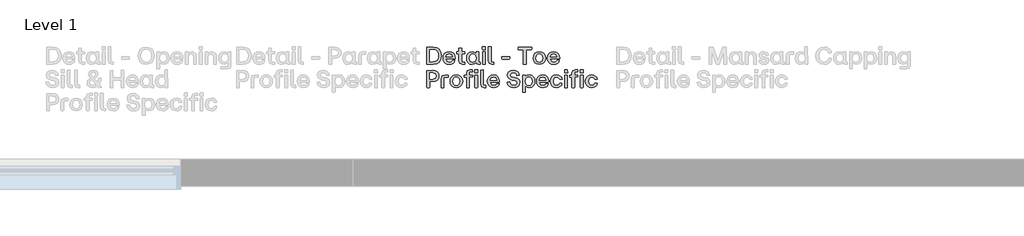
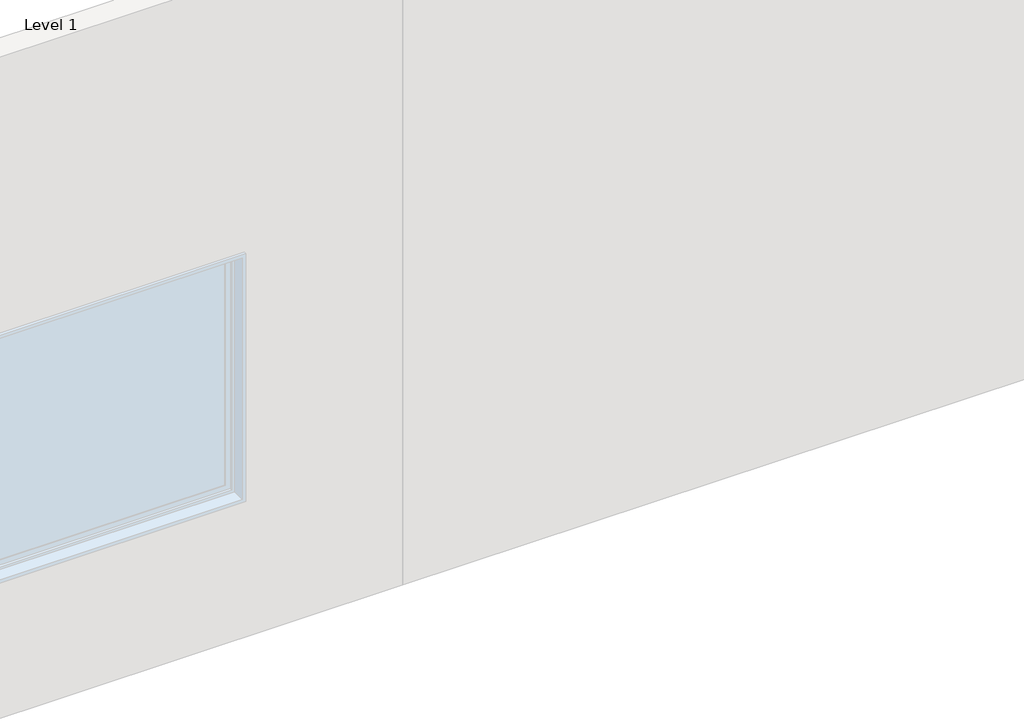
# One storey, part 49 of 64: 1 proxy.
"""IFC4 building model written with IfcOpenShell, lengths in millimetres."""

from ifc_helpers import new_model, si_unit, origin, origin_with_axes, place, context, project, spatial, polyline, outline, extrude, element, save

model = new_model("IFC4")

# Units and contexts
model_context = context("Model", 3, world=origin())
ifc_project = project(units=[si_unit("LENGTHUNIT", "METRE", prefix="MILLI")], contexts=[model_context])

# Site, building, storey
site = spatial("IfcSite", under=ifc_project)
building = spatial("IfcBuilding", under=site)
storey = spatial("IfcBuildingStorey", under=building, Name="Level 1", Elevation=0.0)

# Proxy
placement = place(None, origin())
element("IfcBuildingElementProxy", 1, Name="90mm", ObjectType="90mm", at=placement, inside=storey, context=model_context, shape_type="SweptSolid", body=[
    extrude(outline(polyline([(17110.2926176, -1500.0), (17108.9872124, -1498.7448027), (17108.9872124, -1411.3077612), (17142.5511873, -1410.002356), (17160.5475781, -1413.0054155), (17174.1193986, -1422.0145938), (17182.63905, -1436.3583606), (17185.4789338, -1455.3651852), (17182.648464, -1474.2025582), (17174.1570545, -1488.2890095), (17160.594648, -1497.0722524), (17142.5511873, -1500.0), (17110.2926176, -1500.0)]), holes=[polyline([(17123.7985402, -1487.3727155), (17141.6725492, -1487.3727155), (17153.8950326, -1485.311054), (17162.9481429, -1479.1260695), (17168.5494607, -1469.0625254), (17170.4165666, -1455.3651852), (17168.5431847, -1441.5109454), (17162.923039, -1431.1775339), (17153.8636527, -1424.7477859), (17141.6725492, -1422.6045366), (17123.7985402, -1422.6045366), (17123.7985402, -1487.3727155)])]), origin_with_axes(), (0.0, 0.0, 1.0), 20.0),
    extrude(outline(polyline([(17227.628458, -1500.7531184), (17214.0409476, -1498.4843493), (17203.5035666, -1491.6780421), (17196.7443293, -1481.0622112), (17194.4912502, -1467.3648711), (17196.7349153, -1453.5012173), (17203.4659107, -1442.7881086), (17213.9938777, -1435.9347315), (17227.628458, -1433.6502725), (17240.1584647, -1435.9033516), (17249.7324819, -1442.6625889), (17255.8044987, -1453.3129377), (17257.8285043, -1467.2393514), (17257.8285043, -1470.6785919), (17256.573307, -1472.009101), (17209.1268503, -1472.009101), (17214.6497183, -1484.6865934), (17227.628458, -1489.2053035), (17238.0465953, -1486.9082925), (17243.4439436, -1480.4691305), (17244.8246606, -1479.4147648), (17256.1967478, -1479.4147648), (17254.1633282, -1488.7314665), (17247.8120301, -1495.1925945), (17238.8248176, -1499.3629874), (17227.628458, -1500.7531184)]), holes=[polyline([(17209.2523701, -1461.5909637), (17243.8205028, -1461.5909637), (17239.0633051, -1449.6289337), (17227.628458, -1445.2733992), (17214.8631018, -1449.4155502), (17209.2523701, -1461.5909637)])]), origin_with_axes(), (0.0, 0.0, 1.0), 20.0),
    extrude(outline(polyline([(17296.6140998, -1500.0), (17282.731618, -1495.2302504), (17277.9618684, -1481.3477686), (17277.9618684, -1445.7754781), (17266.7906127, -1445.7754781), (17265.4852076, -1435.7339), (17266.7906127, -1434.4787027), (17277.9618684, -1434.4787027), (17277.9618684, -1416.45407), (17279.2170657, -1415.1486648), (17290.9657121, -1415.1486648), (17292.2209094, -1416.45407), (17292.2209094, -1434.4787027), (17308.0363949, -1434.4787027), (17309.3418001, -1435.7339), (17309.3418001, -1444.444969), (17292.2209094, -1445.7754781), (17292.2209094, -1488.7032246), (17308.0363949, -1488.7032246), (17309.3418001, -1489.9584219), (17309.3418001, -1498.7448027), (17308.0363949, -1500.0), (17296.6140998, -1500.0)])), origin_with_axes(), (0.0, 0.0, 1.0), 20.0),
    extrude(outline(polyline([(17347.2738615, -1500.7531184), (17335.3243835, -1498.4843493), (17326.0861316, -1491.6780421), (17320.1741525, -1481.0622112), (17318.2034928, -1467.3648711), (17320.1741525, -1453.5325972), (17326.0861316, -1442.8132125), (17335.3243835, -1435.9410075), (17347.2738615, -1433.6502725), (17359.1856835, -1436.5372262), (17368.160344, -1444.444969), (17368.7377347, -1435.7339), (17369.992932, -1434.4787027), (17381.6662665, -1434.4787027), (17382.9716717, -1435.7339), (17382.9716717, -1488.7032246), (17390.0760882, -1488.7032246), (17391.3312855, -1489.9584219), (17391.3312855, -1498.7448027), (17390.0760882, -1500.0), (17380.536589, -1500.0), (17372.1581473, -1497.6465051), (17369.3653333, -1490.5860205), (17359.7254183, -1497.8661646), (17347.2738615, -1500.7531184)]), holes=[polyline([(17332.7135732, -1467.3648711), (17337.6716024, -1483.3686362), (17343.5365116, -1487.7461367), (17351.2151809, -1489.2053035), (17358.7714684, -1487.7524127), (17364.470064, -1483.3937402), (17369.2398136, -1467.3648711), (17364.4324081, -1451.1728263), (17358.7243985, -1446.748256), (17351.2151809, -1445.2733992), (17343.5365116, -1446.748256), (17337.6716024, -1451.1728263), (17332.7135732, -1467.3648711)])]), origin_with_axes(), (0.0, 0.0, 1.0), 20.0),
    extrude(outline(polyline([(17403.6824266, -1500.0), (17402.3770214, -1498.7448027), (17402.3770214, -1435.7339), (17403.6824266, -1434.4787027), (17415.3557612, -1434.4787027), (17416.6109584, -1435.7339), (17416.6109584, -1498.7448027), (17415.3557612, -1500.0), (17403.6824266, -1500.0)])), origin_with_axes(), (0.0, 0.0, 1.0), 20.0),
    extrude(outline(polyline([(17401.3728636, -1421.8514182), (17401.3728636, -1407.9940404), (17402.6280609, -1406.6635313), (17416.4854387, -1406.6635313), (17417.8159478, -1421.8514182), (17416.4854387, -1423.1066155), (17402.6280609, -1423.1066155), (17401.3728636, -1421.8514182)])), origin_with_axes(), (0.0, 0.0, 1.0), 20.0),
    extrude(outline(polyline([(17451.5305464, -1500.0), (17437.6731686, -1495.2302504), (17432.903419, -1481.3477686), (17432.903419, -1408.7471587), (17445.8821587, -1407.4166496), (17447.137356, -1408.7471587), (17447.137356, -1488.7032246), (17459.1370418, -1488.7032246), (17460.3922391, -1489.9584219), (17460.3922391, -1498.7448027), (17459.1370418, -1500.0), (17451.5305464, -1500.0)])), origin_with_axes(), (0.0, 0.0, 1.0), 20.0),
    extrude(outline(polyline([(17505.1776775, -1472.887739), (17503.9224803, -1471.5572299), (17503.9224803, -1461.5909637), (17505.1776775, -1460.2604546), (17543.7875455, -1460.2604546), (17545.0427427, -1461.5909637), (17545.0427427, -1471.5572299), (17543.7875455, -1472.887739), (17505.1776775, -1472.887739)])), origin_with_axes(), (0.0, 0.0, 1.0), 20.0),
    extrude(outline(polyline([(17618.5973025, -1500.0), (17617.3421053, -1498.7448027), (17617.3421053, -1422.6045366), (17590.355364, -1422.6045366), (17589.0499589, -1421.3493393), (17589.0499589, -1411.3077612), (17659.1401742, -1410.002356), (17660.3953715, -1411.3077612), (17660.3953715, -1421.3493393), (17659.1401742, -1422.6045366), (17632.153433, -1422.6045366), (17632.153433, -1498.7448027), (17630.8480278, -1500.0), (17618.5973025, -1500.0)])), origin_with_axes(), (0.0, 0.0, 1.0), 20.0),
    extrude(outline(polyline([(17701.2143866, -1500.7531184), (17687.9877454, -1498.4466934), (17677.5288142, -1491.5274185), (17670.722507, -1480.8739317), (17668.4537379, -1467.3648711), (17670.728783, -1453.7679467), (17677.5539181, -1443.0014921), (17688.0191253, -1435.9880774), (17701.2143866, -1433.6502725), (17714.5665475, -1435.9880774), (17725.1007906, -1443.0014921), (17731.9447537, -1453.7679467), (17734.2260747, -1467.3648711), (17731.9447537, -1480.8739317), (17725.1007906, -1491.5274185), (17714.5665475, -1498.4466934), (17701.2143866, -1500.7531184)]), holes=[polyline([(17682.9638183, -1467.3648711), (17687.8214318, -1483.3937402), (17693.5984772, -1487.7524127), (17701.2143866, -1489.2053035), (17708.9118838, -1487.7461367), (17714.783069, -1483.3686362), (17719.7410982, -1467.3648711), (17714.808173, -1451.1728263), (17708.9432638, -1446.748256), (17701.2143866, -1445.2733992), (17693.5984772, -1446.748256), (17687.8214318, -1451.1728263), (17682.9638183, -1467.3648711)])]), origin_with_axes(), (0.0, 0.0, 1.0), 20.0),
    extrude(outline(polyline([(17777.1036133, -1500.7531184), (17763.5161029, -1498.4843493), (17752.9787219, -1491.6780421), (17746.2194846, -1481.0622112), (17743.9664055, -1467.3648711), (17746.2100706, -1453.5012173), (17752.9410659, -1442.7881086), (17763.469033, -1435.9347315), (17777.1036133, -1433.6502725), (17789.63362, -1435.9033516), (17799.2076372, -1442.6625889), (17805.2796539, -1453.3129377), (17807.3036595, -1467.2393514), (17807.3036595, -1470.6785919), (17806.0484623, -1472.009101), (17758.6020056, -1472.009101), (17764.1248736, -1484.6865934), (17777.1036133, -1489.2053035), (17787.5217506, -1486.9082925), (17792.9190989, -1480.4691305), (17794.2998159, -1479.4147648), (17805.6719031, -1479.4147648), (17803.6384835, -1488.7314665), (17797.2871854, -1495.1925945), (17788.2999729, -1499.3629874), (17777.1036133, -1500.7531184)]), holes=[polyline([(17758.7275253, -1461.5909637), (17793.295658, -1461.5909637), (17788.5384604, -1449.6289337), (17777.1036133, -1445.2733992), (17764.3382571, -1449.4155502), (17758.7275253, -1461.5909637)])]), origin_with_axes(), (0.0, 0.0, 1.0), 20.0),
    extrude(outline(polyline([(17110.2926176, -1622.13305), (17108.9872124, -1620.8778528), (17108.9872124, -1533.4408112), (17140.1161046, -1532.135406), (17154.0174144, -1534.0338919), (17164.3414119, -1539.7293495), (17170.7429179, -1548.9236695), (17172.8767533, -1561.3187425), (17170.7429179, -1573.7138155), (17164.3414119, -1582.9081354), (17154.0174144, -1588.603593), (17140.1161046, -1590.5020789), (17123.7985402, -1590.5020789), (17123.7985402, -1620.8778528), (17122.4680311, -1622.13305), (17110.2926176, -1622.13305)]), holes=[polyline([(17123.7985402, -1577.8747944), (17140.1161046, -1577.8747944), (17153.5969233, -1573.7954033), (17157.9901137, -1561.3061905), (17153.5969233, -1548.8169777), (17140.1161046, -1544.7375866), (17123.7985402, -1544.7375866), (17123.7985402, -1577.8747944)])]), origin_with_axes(), (0.0, 0.0, 1.0), 20.0),
    extrude(outline(polyline([(17186.1065325, -1622.13305), (17184.8513352, -1620.8778528), (17184.8513352, -1575.1886723), (17189.6210848, -1561.3438464), (17203.4784626, -1556.6117527), (17221.7541348, -1556.6117527), (17223.0093321, -1557.86695), (17223.0093321, -1567.4064492), (17221.7541348, -1568.6616465), (17199.0852722, -1568.6616465), (17199.0852722, -1620.8778528), (17197.8300749, -1622.13305), (17186.1065325, -1622.13305)])), origin_with_axes(), (0.0, 0.0, 1.0), 20.0),
    extrude(outline(polyline([(17264.2049064, -1622.8861684), (17250.9782652, -1620.5797434), (17240.519334, -1613.6604685), (17233.7130268, -1603.0069817), (17231.4442577, -1589.4979211), (17233.7193028, -1575.9009967), (17240.5444379, -1565.1345422), (17251.0096451, -1558.1211274), (17264.2049064, -1555.7833225), (17277.5570673, -1558.1211274), (17288.0913103, -1565.1345422), (17294.9352734, -1575.9009967), (17297.2165945, -1589.4979211), (17294.9352734, -1603.0069817), (17288.0913103, -1613.6604685), (17277.5570673, -1620.5797434), (17264.2049064, -1622.8861684)]), holes=[polyline([(17245.9543381, -1589.4979211), (17250.8119515, -1605.5267902), (17256.588997, -1609.8854627), (17264.2049064, -1611.3383535), (17271.9024036, -1609.8791867), (17277.7735888, -1605.5016862), (17282.731618, -1589.4979211), (17277.7986928, -1573.3058764), (17271.9337835, -1568.881306), (17264.2049064, -1567.4064492), (17256.588997, -1568.881306), (17250.8119515, -1573.3058764), (17245.9543381, -1589.4979211)])]), origin_with_axes(), (0.0, 0.0, 1.0), 20.0),
    extrude(outline(polyline([(17319.3833782, -1622.13305), (17318.1281809, -1620.8778528), (17318.1281809, -1567.9085281), (17306.9569253, -1567.9085281), (17305.6515201, -1557.86695), (17306.9569253, -1556.6117527), (17318.1281809, -1556.6117527), (17318.1281809, -1548.201931), (17322.8979305, -1534.3194493), (17336.7804123, -1529.5496997), (17348.2027074, -1529.5496997), (17349.5081126, -1539.5912778), (17332.3872219, -1540.9217869), (17332.3872219, -1556.6117527), (17348.2027074, -1556.6117527), (17349.5081126, -1557.86695), (17349.5081126, -1566.578019), (17332.3872219, -1567.9085281), (17332.3872219, -1620.8778528), (17331.1320246, -1622.13305), (17319.3833782, -1622.13305)])), origin_with_axes(), (0.0, 0.0, 1.0), 20.0),
    extrude(outline(polyline([(17361.3069669, -1543.9844682), (17361.3069669, -1530.1270904), (17362.5621642, -1528.7965813), (17376.4948538, -1528.7965813), (17377.7500511, -1530.1270904), (17377.7500511, -1543.9844682), (17376.4948538, -1545.2396655), (17362.5621642, -1545.2396655), (17361.3069669, -1543.9844682)])), origin_with_axes(), (0.0, 0.0, 1.0), 20.0),
    extrude(outline(polyline([(17362.3111247, -1620.8778528), (17362.3111247, -1557.86695), (17363.6416338, -1556.6117527), (17375.3149684, -1556.6117527), (17376.6203735, -1557.86695), (17376.6203735, -1620.8778528), (17375.3149684, -1622.13305), (17363.6416338, -1622.13305), (17362.3111247, -1620.8778528)])), origin_with_axes(), (0.0, 0.0, 1.0), 20.0),
    extrude(outline(polyline([(17411.3642339, -1622.13305), (17397.506856, -1617.3633004), (17392.7371064, -1603.4808186), (17392.7371064, -1530.8802088), (17405.7158462, -1529.5496997), (17406.9710434, -1530.8802088), (17406.9710434, -1610.8362746), (17418.9707293, -1610.8362746), (17420.2259266, -1612.0914719), (17420.2259266, -1620.8778528), (17418.9707293, -1622.13305), (17411.3642339, -1622.13305)])), origin_with_axes(), (0.0, 0.0, 1.0), 20.0),
    extrude(outline(polyline([(17460.5930707, -1622.8861684), (17447.0055602, -1620.6173993), (17436.4681792, -1613.8110921), (17429.7089419, -1603.1952613), (17427.4558628, -1589.4979211), (17429.6995279, -1575.6342673), (17436.4305233, -1564.9211586), (17446.9584903, -1558.0677815), (17460.5930707, -1555.7833225), (17473.1230774, -1558.0364016), (17482.6970945, -1564.7956389), (17488.7691113, -1575.4459877), (17490.7931169, -1589.3724014), (17490.7931169, -1592.8116419), (17489.5379196, -1594.142151), (17442.0914629, -1594.142151), (17447.6143309, -1606.8196434), (17460.5930707, -1611.3383535), (17471.011208, -1609.0413425), (17476.4085562, -1602.6021806), (17477.7892732, -1601.5478148), (17489.1613604, -1601.5478148), (17487.1279409, -1610.8645166), (17480.7766427, -1617.3256445), (17471.7894303, -1621.4960374), (17460.5930707, -1622.8861684)]), holes=[polyline([(17442.2169827, -1583.7240137), (17476.7851154, -1583.7240137), (17472.0279177, -1571.7619837), (17460.5930707, -1567.4064492), (17447.8277145, -1571.5486002), (17442.2169827, -1583.7240137)])]), origin_with_axes(), (0.0, 0.0, 1.0), 20.0),
    extrude(outline(polyline([(17566.8831752, -1622.8861684), (17553.1136611, -1621.0347524), (17542.4319324, -1615.4805045), (17535.1706162, -1606.5058441), (17531.6623399, -1594.3931904), (17544.917223, -1592.9371616), (17546.2226282, -1594.142151), (17552.4107507, -1606.6941236), (17566.8831752, -1610.5852352), (17579.3974919, -1607.007923), (17583.8785461, -1597.0793126), (17580.7782089, -1588.8326665), (17570.3977275, -1584.7281715), (17558.5235614, -1582.644544), (17547.5186193, -1579.3904451), (17539.6579465, -1574.0715467), (17534.9415427, -1566.6878488), (17533.3694082, -1557.2393514), (17535.3839998, -1546.397585), (17541.4277746, -1538.2231128), (17551.0802416, -1533.0924939), (17563.9209096, -1531.3822877), (17576.6548859, -1533.1144599), (17586.5897722, -1538.3109766), (17593.3803895, -1546.6643144), (17596.6815583, -1557.86695), (17583.501987, -1559.2978749), (17582.0710621, -1557.86695), (17576.2594987, -1547.1601173), (17563.9209096, -1543.7334288), (17552.1597112, -1546.8714219), (17548.1054241, -1556.034362), (17551.7203922, -1564.732879), (17563.0422715, -1569.2892451), (17574.8411258, -1571.3477686), (17585.6609263, -1574.5171417), (17593.0163822, -1579.6069666), (17597.2338451, -1586.9373187), (17598.639666, -1596.8282731), (17596.5277966, -1607.7422134), (17590.1921884, -1615.9825834), (17580.1411963, -1621.1602721), (17566.8831752, -1622.8861684)])), origin_with_axes(), (0.0, 0.0, 1.0), 20.0),
    extrude(outline(polyline([(17614.1539042, -1646.5340849), (17612.848499, -1645.2788876), (17612.848499, -1557.86695), (17614.1539042, -1556.6117527), (17625.1996401, -1556.6117527), (17626.4548374, -1557.86695), (17626.4548374, -1566.4524993), (17636.0947524, -1558.6702762), (17648.5463093, -1555.7833225), (17660.4957873, -1558.0583676), (17669.7340392, -1564.8835027), (17675.6460183, -1575.5244375), (17677.616678, -1589.2468816), (17675.6460183, -1603.0540516), (17669.7340392, -1613.7483323), (17660.4957873, -1620.6017094), (17648.5463093, -1622.8861684), (17636.6344872, -1619.9992147), (17627.6598268, -1612.0914719), (17627.082436, -1645.2788876), (17625.8272388, -1646.5340849), (17614.1539042, -1646.5340849)]), holes=[polyline([(17626.5803571, -1589.2468816), (17631.3877627, -1605.4389264), (17637.0957722, -1609.8634967), (17644.6049899, -1611.3383535), (17652.2836592, -1609.8634967), (17658.1485684, -1605.4389264), (17663.1065976, -1589.2468816), (17658.1485684, -1573.2431165), (17652.2836592, -1568.865616), (17644.6049899, -1567.4064492), (17637.0487023, -1568.856202), (17631.3501068, -1573.2054606), (17626.5803571, -1589.2468816)])]), origin_with_axes(), (0.0, 0.0, 1.0), 20.0),
    extrude(outline(polyline([(17719.2641233, -1622.8861684), (17705.6766129, -1620.6173993), (17695.1392318, -1613.8110921), (17688.3799945, -1603.1952613), (17686.1269155, -1589.4979211), (17688.3705806, -1575.6342673), (17695.1015759, -1564.9211586), (17705.629543, -1558.0677815), (17719.2641233, -1555.7833225), (17731.79413, -1558.0364016), (17741.3681471, -1564.7956389), (17747.4401639, -1575.4459877), (17749.4641695, -1589.3724014), (17749.4641695, -1592.8116419), (17748.2089722, -1594.142151), (17700.7625156, -1594.142151), (17706.2853836, -1606.8196434), (17719.2641233, -1611.3383535), (17729.6822606, -1609.0413425), (17735.0796088, -1602.6021806), (17736.4603258, -1601.5478148), (17747.8324131, -1601.5478148), (17745.7989935, -1610.8645166), (17739.4476953, -1617.3256445), (17730.4604829, -1621.4960374), (17719.2641233, -1622.8861684)]), holes=[polyline([(17700.8880353, -1583.7240137), (17735.456168, -1583.7240137), (17730.6989704, -1571.7619837), (17719.2641233, -1567.4064492), (17706.4987671, -1571.5486002), (17700.8880353, -1583.7240137)])]), origin_with_axes(), (0.0, 0.0, 1.0), 20.0),
    extrude(outline(polyline([(17791.4379661, -1622.8861684), (17777.9445955, -1620.6173993), (17767.4385944, -1613.8110921), (17760.6793571, -1603.1952613), (17758.426278, -1589.4979211), (17760.710737, -1575.9009967), (17767.5641141, -1565.1345422), (17778.1014951, -1558.1211274), (17791.4379661, -1555.7833225), (17802.4209422, -1557.3303532), (17811.3704987, -1561.971445), (17817.6841409, -1569.1543114), (17820.7593742, -1578.3266654), (17808.1320897, -1579.7073824), (17801.7054797, -1570.1678832), (17791.4379661, -1567.4064492), (17783.680847, -1568.881306), (17777.8316277, -1573.3058764), (17772.9363584, -1589.4979211), (17777.8567317, -1605.5644461), (17783.7122269, -1609.8948767), (17791.4379661, -1611.3383535), (17802.019279, -1608.7024393), (17807.3789714, -1600.1670979), (17808.7596884, -1598.9621085), (17820.1317756, -1598.9621085), (17818.12346, -1609.4712476), (17811.7470579, -1616.6980459), (17802.7033616, -1621.3391377), (17791.4379661, -1622.8861684)])), origin_with_axes(), (0.0, 0.0, 1.0), 20.0),
    extrude(outline(polyline([(17833.5623863, -1543.9844682), (17833.5623863, -1530.1270904), (17834.8175836, -1528.7965813), (17848.6749614, -1528.7965813), (17850.0054705, -1543.9844682), (17848.6749614, -1545.2396655), (17834.8175836, -1545.2396655), (17833.5623863, -1543.9844682)])), origin_with_axes(), (0.0, 0.0, 1.0), 20.0),
    extrude(outline(polyline([(17835.8719493, -1622.13305), (17834.5665442, -1620.8778528), (17834.5665442, -1557.86695), (17835.8719493, -1556.6117527), (17847.5452839, -1556.6117527), (17848.8004812, -1557.86695), (17848.8004812, -1620.8778528), (17847.5452839, -1622.13305), (17835.8719493, -1622.13305)])), origin_with_axes(), (0.0, 0.0, 1.0), 20.0),
    extrude(outline(polyline([(17915.6020797, -1543.9844682), (17915.6020797, -1530.1270904), (17916.8572769, -1528.7965813), (17930.7899666, -1528.7965813), (17932.0451639, -1530.1270904), (17932.0451639, -1543.9844682), (17930.7899666, -1545.2396655), (17916.8572769, -1545.2396655), (17915.6020797, -1543.9844682)])), origin_with_axes(), (0.0, 0.0, 1.0), 20.0),
    extrude(outline(polyline([(17916.6062375, -1620.8778528), (17916.6062375, -1557.86695), (17917.9367466, -1556.6117527), (17929.6100812, -1556.6117527), (17930.9154863, -1557.86695), (17930.9154863, -1620.8778528), (17929.6100812, -1622.13305), (17917.9367466, -1622.13305), (17916.6062375, -1620.8778528)])), origin_with_axes(), (0.0, 0.0, 1.0), 20.0),
    extrude(outline(polyline([(17873.678491, -1622.13305), (17872.4232937, -1620.8778528), (17872.4232937, -1567.9085281), (17861.252038, -1567.9085281), (17859.9466329, -1557.86695), (17861.252038, -1556.6117527), (17872.4232937, -1556.6117527), (17872.4232937, -1548.201931), (17877.1930433, -1534.3194493), (17891.0755251, -1529.5496997), (17902.4978202, -1529.5496997), (17903.8032254, -1539.5912778), (17886.6823347, -1540.9217869), (17886.6823347, -1556.6117527), (17902.4978202, -1556.6117527), (17903.8032254, -1557.86695), (17903.8032254, -1566.578019), (17886.6823347, -1567.9085281), (17886.6823347, -1620.8778528), (17885.4271374, -1622.13305), (17873.678491, -1622.13305)])), origin_with_axes(), (0.0, 0.0, 1.0), 20.0),
    extrude(outline(polyline([(17976.2030037, -1622.8861684), (17962.7096331, -1620.6173993), (17952.203632, -1613.8110921), (17945.4443947, -1603.1952613), (17943.1913156, -1589.4979211), (17945.4757746, -1575.9009967), (17952.3291517, -1565.1345422), (17962.8665327, -1558.1211274), (17976.2030037, -1555.7833225), (17987.1859798, -1557.3303532), (17996.1355363, -1561.971445), (18002.4491785, -1569.1543114), (18005.5244118, -1578.3266654), (17992.8971273, -1579.7073824), (17986.4705173, -1570.1678832), (17976.2030037, -1567.4064492), (17968.4458846, -1568.881306), (17962.5966653, -1573.3058764), (17957.701396, -1589.4979211), (17962.6217693, -1605.5644461), (17968.4772645, -1609.8948767), (17976.2030037, -1611.3383535), (17986.7843166, -1608.7024393), (17992.144009, -1600.1670979), (17993.524726, -1598.9621085), (18004.8968132, -1598.9621085), (18002.8884976, -1609.4712476), (17996.5120955, -1616.6980459), (17987.4683992, -1621.3391377), (17976.2030037, -1622.8861684)])), origin_with_axes(), (0.0, 0.0, 1.0), 20.0),
])

save(model, "model.ifc")
